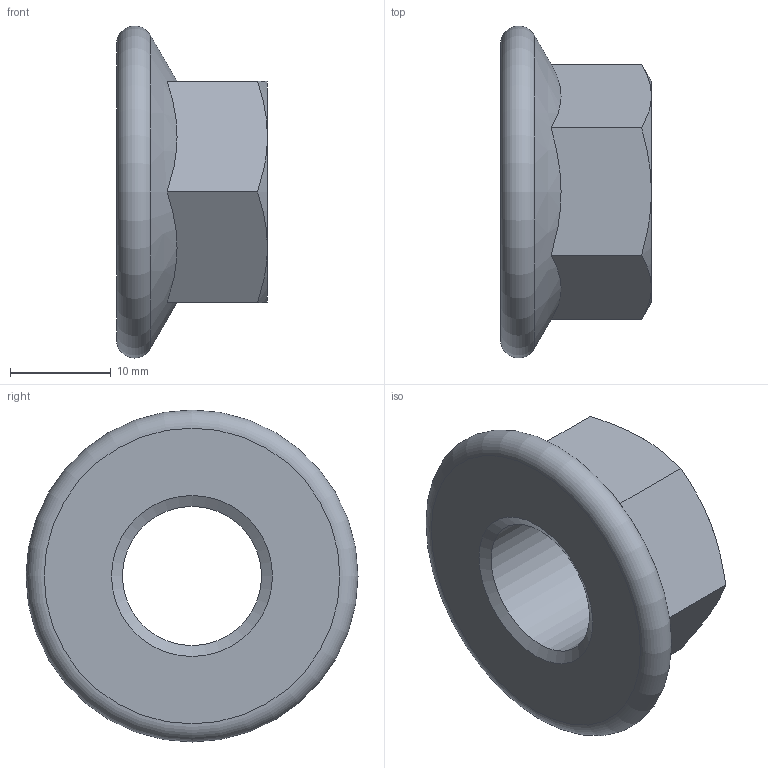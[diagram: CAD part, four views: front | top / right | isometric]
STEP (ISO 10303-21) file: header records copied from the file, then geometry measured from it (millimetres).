
FILE_DESCRIPTION(/* description */ (''),/* implementation_level */ '2;1');
FILE_NAME(/* name */ '',/* time_stamp */ '2026-07-01T11:14:49+09:00',/* author */ ('jhkim'),/* organization */ (''),/* preprocessor_version */ 'ST-DEVELOPER v20.1',/* originating_system */ 'Autodesk Inventor 2027',/* authorisation */ '');
FILE_SCHEMA (('AUTOMOTIVE_DESIGN { 1 0 10303 214 3 1 1 }'));
Length unit declared in the file: millimetre
Products named in the file (1): 6각 플랜지 너트 M16
Bounding box: 15 x 33 x 33 mm (x, y, z)
Volume: 5720.5 mm3; surface area: 2966.8 mm2
Topology: 1 solids, 1 shells, 19 faces, 49 edges, 32 vertices
Faces by surface type: cone 9, plane 8, cylinder 1, torus 1
Full cylindrical faces by diameter (mm): 13.835 x1
Entity records: 605 total; most frequent: CARTESIAN_POINT 149, ORIENTED_EDGE 98, DIRECTION 80, EDGE_CURVE 49, AXIS2_PLACEMENT_3D 35, VERTEX_POINT 32, EDGE_LOOP 21, FACE_OUTER_BOUND 19
